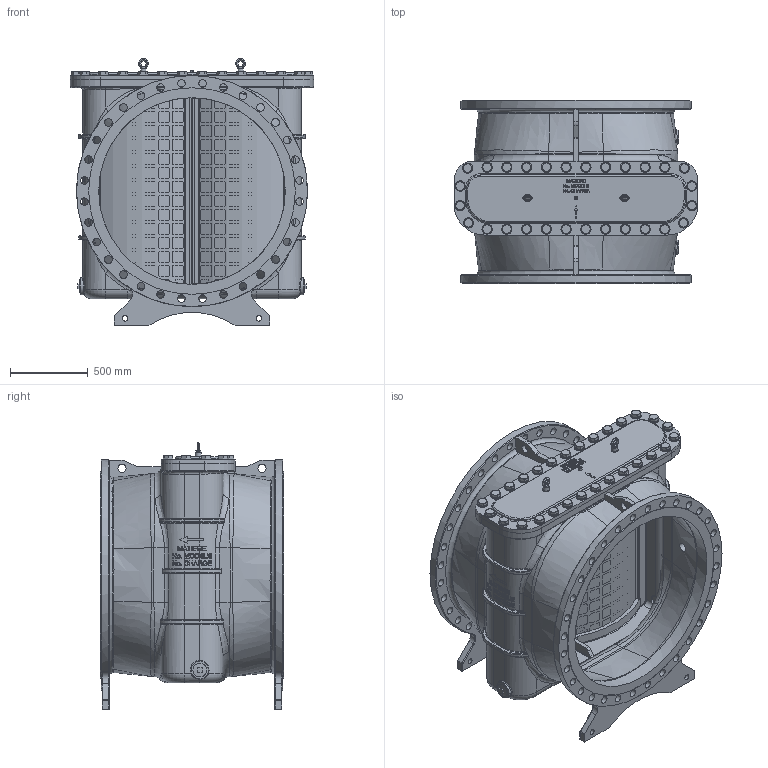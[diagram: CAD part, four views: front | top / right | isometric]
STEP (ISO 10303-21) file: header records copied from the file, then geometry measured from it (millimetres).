
FILE_DESCRIPTION(/* description */ ('AQUA 90-501 - DN 1200 / PN 16'),/* implementation_level */ '2;1');
FILE_NAME(/* name */ 'G:\Doc_Liberes\SymbolesCAD\Modeles_3D\FichierSTP\Aqua\Aqua90501\FAB1200-16RF.stp',/* time_stamp */ '2019-09-03T15:20:59+02:00',/* author */ ('leonardo'),/* organization */ (''),/* preprocessor_version */ 'ST-DEVELOPER v18',/* originating_system */ 'Autodesk Inventor 2020',/* authorisation */ '');
FILE_SCHEMA (('AUTOMOTIVE_DESIGN { 1 0 10303 214 3 1 1 }'));
Length unit declared in the file: millimetre
Products named in the file (15): *CTA90501G112002-KCO-RAL5005; 300576-02; 300572-01; 300573-01; FABT-041; FABT-042; 300571-01; ISO 7089 - 36 - 140 HV; ISO 4017 - M36 x 70; CDN1000; 57576-02; 57576-07; 57507; DIN EN 10242 Bouchon mâle plat T8 3; DIN 580 - M16 x 1.5
Assembly tree (72 placements, depth 3):
  *CTA90501G112002-KCO-RAL5005
    300576-02
    300572-01  x2
    300573-01  x2
      FABT-041
      FABT-042
    300571-01
    ISO 7089 - 36 - 140 HV  x28
    ISO 4017 - M36 x 70  x28
    DIN 580 - M16 x 1.5  x2
    CDN1000
    57576-02
      57576-07
      57507
    DIN EN 10242 Bouchon mâle plat T8 3  x2
Bounding box: 1566 x 1180 x 1714.5 mm (x, y, z)
Volume: 284291126.2 mm3; surface area: 24866453.7 mm2
Topology: 71 solids, 71 shells, 4717 faces, 12543 edges, 8092 vertices
Faces by surface type: plane 1990, cylinder 1619, bspline 578, torus 247, cone 243, sphere 40
Full cylindrical faces by diameter (mm): 1.6 x1, 2.3 x1, 6.5 x1, 6.92 x1, 8 x1, 13.84 x2, 14 x1, 15 x2, 16 x2, 18.63 x1, 20.955 x1, 31.67 x28, 35 x4, 36 x28, 37 x28, 39 x28, 49 x64, 51.11 x28, 52 x2, 56.66 x2, 66 x28, 84.93 x2, 112 x2, 1200 x2, 1328 x2, 1485 x2
Entity records: 127335 total; most frequent: CARTESIAN_POINT 46201, ORIENTED_EDGE 17496, DIRECTION 15002, EDGE_CURVE 8748, VERTEX_POINT 5608, AXIS2_PLACEMENT_3D 5446, LINE 4110, VECTOR 4110
